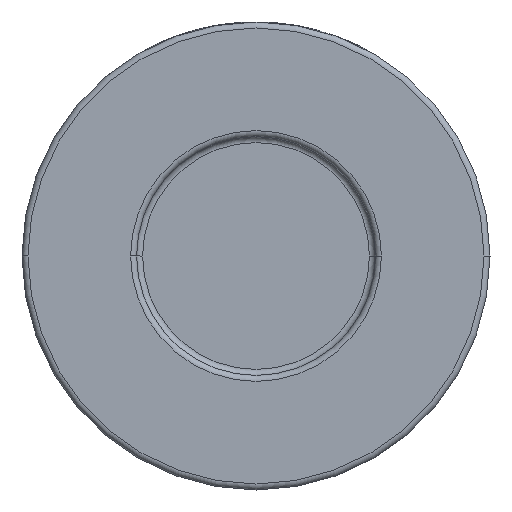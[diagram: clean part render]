
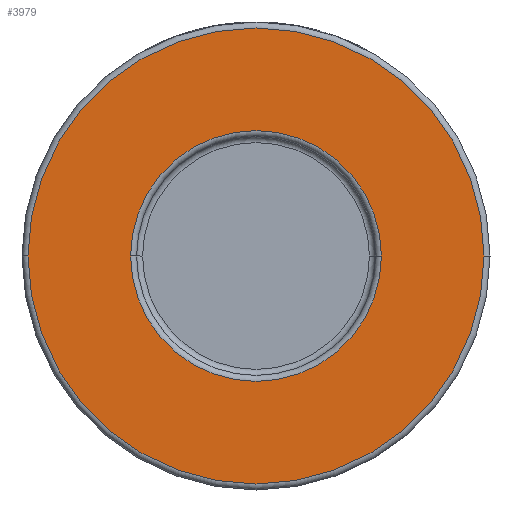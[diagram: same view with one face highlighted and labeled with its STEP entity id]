
A CAD part, front view. The second image highlights one B-rep face of the part: STEP entity #3979.
In plain terms, the highlighted planar face has unit normal (0, -1, 0).
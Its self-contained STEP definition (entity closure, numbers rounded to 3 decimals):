
#269 = PLANE ( 'NONE',  #1684 ) ;
#427 = VERTEX_POINT ( 'NONE', #1809 ) ;
#456 = DIRECTION ( 'NONE',  ( 1., 0., 0. ) ) ;
#640 = EDGE_CURVE ( 'NONE', #2833, #1395, #3034, .T. ) ;
#699 = CARTESIAN_POINT ( 'NONE',  ( 0., -26., 0. ) ) ;
#1192 = EDGE_LOOP ( 'NONE', ( #2138, #4414 ) ) ;
#1264 = DIRECTION ( 'NONE',  ( 1., 0., 0. ) ) ;
#1278 = EDGE_CURVE ( 'NONE', #1395, #2833, #4511, .T. ) ;
#1395 = VERTEX_POINT ( 'NONE', #3951 ) ;
#1495 = CARTESIAN_POINT ( 'NONE',  ( 0., -26., 0. ) ) ;
#1595 = CIRCLE ( 'NONE', #1967, 20.9 ) ;
#1684 = AXIS2_PLACEMENT_3D ( 'NONE', #4176, #2412, #1699 ) ;
#1699 = DIRECTION ( 'NONE',  ( 1., 0., 0. ) ) ;
#1800 = EDGE_CURVE ( 'NONE', #4300, #427, #1595, .T. ) ;
#1809 = CARTESIAN_POINT ( 'NONE',  ( -20.9, -26., 0. ) ) ;
#1923 = CARTESIAN_POINT ( 'NONE',  ( 20.9, -26., 0. ) ) ;
#1967 = AXIS2_PLACEMENT_3D ( 'NONE', #1495, #3601, #456 ) ;
#1974 = FACE_OUTER_BOUND ( 'NONE', #1192, .T. ) ;
#2099 = DIRECTION ( 'NONE',  ( 1., 0., 0. ) ) ;
#2138 = ORIENTED_EDGE ( 'NONE', *, *, #640, .T. ) ;
#2221 = ORIENTED_EDGE ( 'NONE', *, *, #1800, .T. ) ;
#2363 = FACE_BOUND ( 'NONE', #2977, .T. ) ;
#2412 = DIRECTION ( 'NONE',  ( 0., -1., 0. ) ) ;
#2420 = DIRECTION ( 'NONE',  ( 0., -1., 0. ) ) ;
#2672 = CARTESIAN_POINT ( 'NONE',  ( 0., -26., 0. ) ) ;
#2677 = AXIS2_PLACEMENT_3D ( 'NONE', #699, #3767, #4187 ) ;
#2711 = ORIENTED_EDGE ( 'NONE', *, *, #3642, .T. ) ;
#2833 = VERTEX_POINT ( 'NONE', #3511 ) ;
#2977 = EDGE_LOOP ( 'NONE', ( #2221, #2711 ) ) ;
#2997 = AXIS2_PLACEMENT_3D ( 'NONE', #2672, #3293, #1264 ) ;
#3034 = CIRCLE ( 'NONE', #2677, 38. ) ;
#3293 = DIRECTION ( 'NONE',  ( 0., 1., 0. ) ) ;
#3484 = AXIS2_PLACEMENT_3D ( 'NONE', #3765, #2420, #2099 ) ;
#3511 = CARTESIAN_POINT ( 'NONE',  ( 38., -26., 0. ) ) ;
#3601 = DIRECTION ( 'NONE',  ( 0., 1., 0. ) ) ;
#3642 = EDGE_CURVE ( 'NONE', #427, #4300, #3657, .T. ) ;
#3657 = CIRCLE ( 'NONE', #2997, 20.9 ) ;
#3765 = CARTESIAN_POINT ( 'NONE',  ( 0., -26., 0. ) ) ;
#3767 = DIRECTION ( 'NONE',  ( 0., -1., 0. ) ) ;
#3951 = CARTESIAN_POINT ( 'NONE',  ( -38., -26., 0. ) ) ;
#3979 = ADVANCED_FACE ( 'NONE', ( #2363, #1974 ), #269, .T. ) ;
#4176 = CARTESIAN_POINT ( 'NONE',  ( 39., -26., 0. ) ) ;
#4187 = DIRECTION ( 'NONE',  ( 1., 0., 0. ) ) ;
#4300 = VERTEX_POINT ( 'NONE', #1923 ) ;
#4414 = ORIENTED_EDGE ( 'NONE', *, *, #1278, .T. ) ;
#4511 = CIRCLE ( 'NONE', #3484, 38. ) ;
